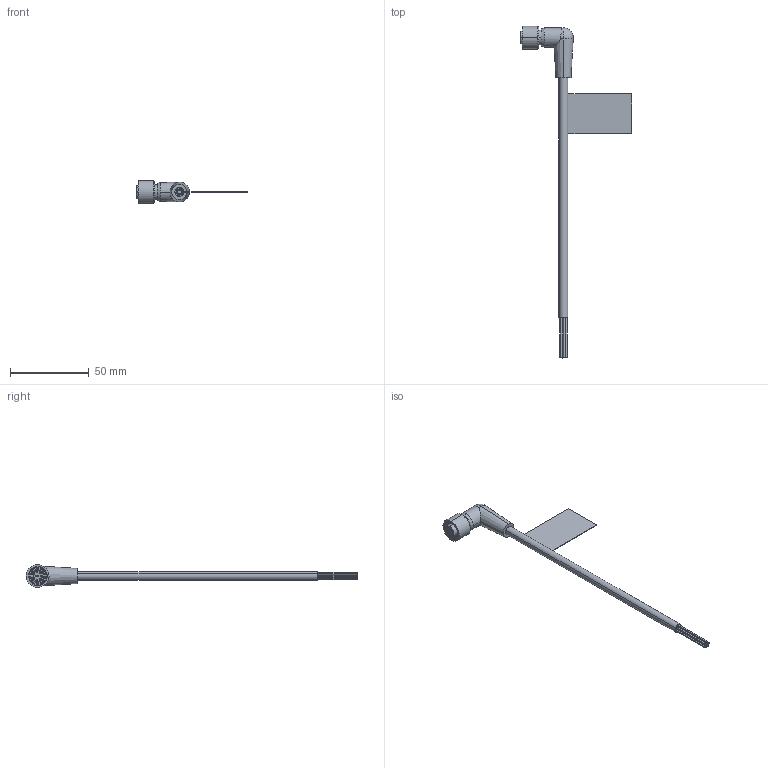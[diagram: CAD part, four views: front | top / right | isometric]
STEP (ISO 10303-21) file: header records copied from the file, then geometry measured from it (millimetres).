
FILE_DESCRIPTION (( 'STEP AP214' ), '1' );
FILE_NAME ('MDCM-6FP-ZZ-R.STEP', '2006-11-17T18:09:21', ( 'Bruce Mistarz' ), ( 'Mencom Corp' ), 'SwSTEP 2.0', 'SolidWorks 2006104', '' );
FILE_SCHEMA (( 'AUTOMOTIVE_DESIGN' ));
Length unit declared in the file: inch
Products named in the file (1): MDCM-6FP-ZZ-R
Bounding box: 70.99 x 210.96 x 14.66 mm (x, y, z)
Surface area: 8477.1 mm2 (no closed solid volume)
Topology: 0 solids, 11 shells, 131 faces, 450 edges, 345 vertices
Faces by surface type: cylinder 81, plane 36, bspline 6, cone 6, sphere 2
Entity records: 9256 total; most frequent: CARTESIAN_POINT 3783, DIRECTION 774, ORIENTED_EDGE 690, EDGE_CURVE 448, VERTEX_POINT 344, AXIS2_PLACEMENT_3D 305, CIRCLE 179, EDGE_LOOP 169
